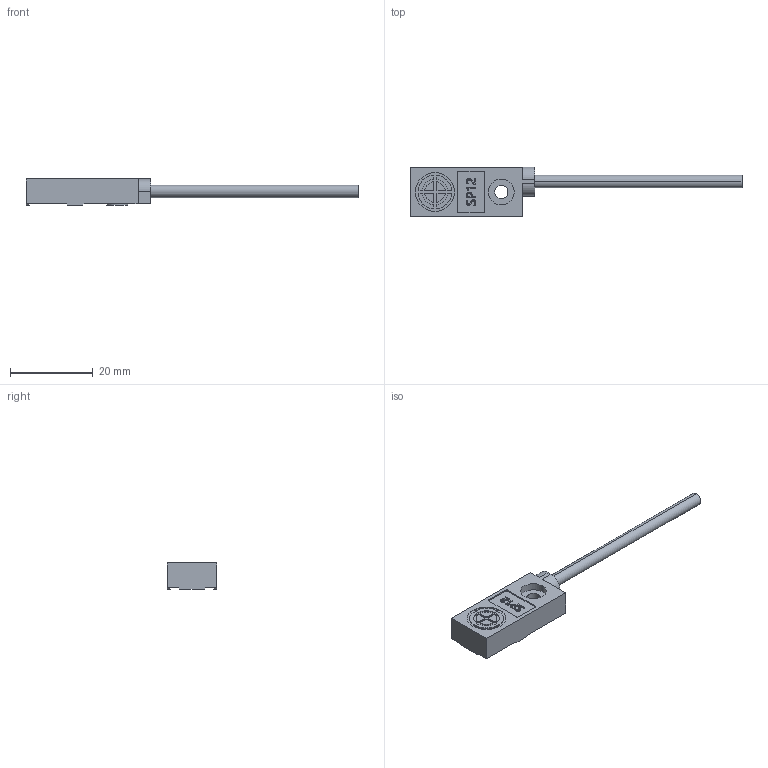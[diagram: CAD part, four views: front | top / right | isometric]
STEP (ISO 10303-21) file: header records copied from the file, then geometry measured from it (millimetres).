
FILE_DESCRIPTION (( 'STEP AP214' ), '1' );
FILE_NAME ('SP12-B.STEP', '2025-09-10T11:41:00', ( 'Windows User' ), ( 'P R C' ), 'SwSTEP 2.0', 'SolidWorks 2023', '' );
FILE_SCHEMA (( 'AUTOMOTIVE_DESIGN' ));
Length unit declared in the file: millimetre
Products named in the file (1): SP12-B
Bounding box: 80 x 12 x 6.3 mm (x, y, z)
Volume: 2305.2 mm3; surface area: 1773.4 mm2
Topology: 1 solids, 1 shells, 165 faces, 435 edges, 290 vertices
Faces by surface type: plane 79, cylinder 60, bspline 26
Entity records: 6596 total; most frequent: CARTESIAN_POINT 2533, ORIENTED_EDGE 870, DIRECTION 783, EDGE_CURVE 435, VERTEX_POINT 290, VECTOR 263, LINE 263, AXIS2_PLACEMENT_3D 260
